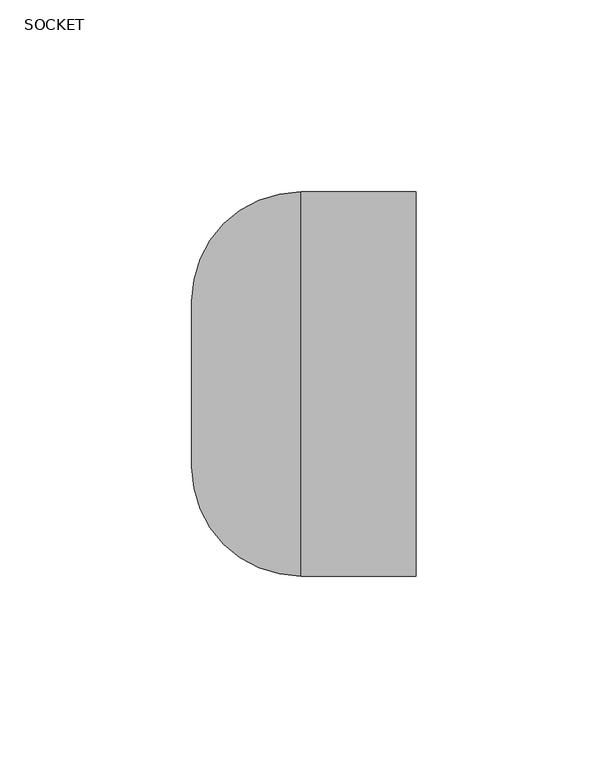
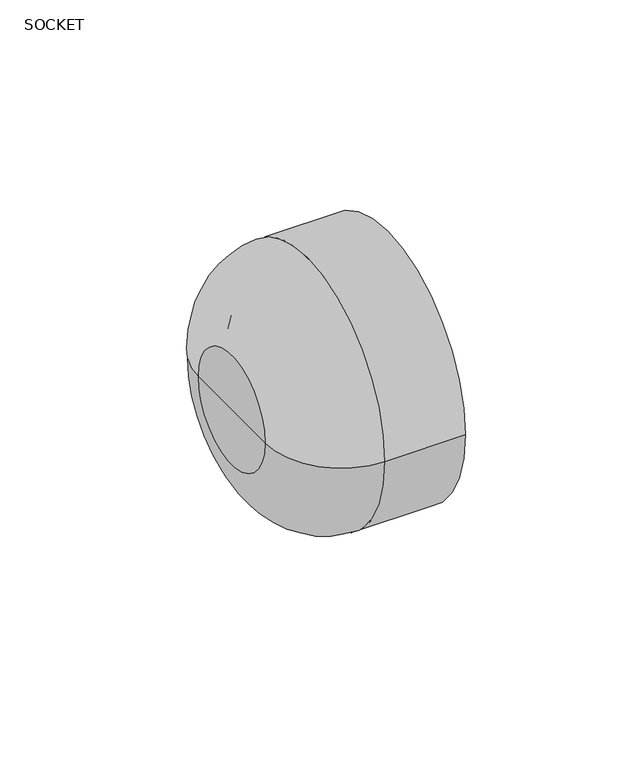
"""IFC4 building model written with IfcOpenShell, lengths in millimetres: pipe fitting geometry, Aquatherm - End Cap Socket : SOCKET."""

from ifc_helpers import new_model, si_unit, point, frame, origin, place, context, project, spatial, polyline, circle_curve, ellipse_curve, trimmed, source, transform, mapped, element, save
from ifc_brep_helpers import plane_surface, cylinder_surface, revolved_surface, advanced_brep


def socket_74daa82f(model_context):
    return source(origin(), model_context, "Body", "AdvancedBrep", [
        advanced_brep(
        [(-58.42, 0.0, 0.0), (-58.42, 21.59, 0.0), (-58.42, -21.59, 0.0), (-39.1751312, -37.465, 0.0), (-39.1751312, 37.465, 0.0), (-39.1751312, 33.6379312, 0.0), (-39.1751312, -33.6379312, 0.0), (0.0, -37.465, 0.0), (0.0, 37.465, 0.0), (0.0, -50.038, 0.0), (0.0, 50.038, 0.0), (-29.972, -50.038, 0.0), (-29.972, 50.038, 0.0), (-42.0199312, -30.7931312, 0.0), (-42.0199312, 30.7931312, 0.0), (-42.0199312, 0.0, 0.0)],
        [
            (0, 1),
            (1, 2, circle_curve(frame((-58.42, 0.0, 0.0), z_axis=(-1.0, 0.0, 0.0), x_axis=(0.0, 1.0, 0.0)), 21.59)),
            (2, 0),
            (2, 1, circle_curve(frame((-58.42, 0.0, 0.0), z_axis=(-1.0, 0.0, 0.0), x_axis=(0.0, 1.0, 0.0)), 21.59)),
            (3, 4, circle_curve(frame((-39.1751312, 0.0, 0.0), z_axis=(1.0, 0.0, 0.0), x_axis=(0.0, 1.0, 0.0)), 37.465)),
            (4, 5),
            (5, 6, circle_curve(frame((-39.1751312, 0.0, 0.0), z_axis=(-1.0, 0.0, 0.0), x_axis=(0.0, 1.0, 0.0)), 33.6379312)),
            (6, 3),
            (4, 3, circle_curve(frame((-39.1751312, 0.0, 0.0), z_axis=(1.0, 0.0, 0.0), x_axis=(0.0, 1.0, 0.0)), 37.465)),
            (6, 5, circle_curve(frame((-39.1751312, 0.0, 0.0), z_axis=(-1.0, 0.0, 0.0), x_axis=(0.0, 1.0, 0.0)), 33.6379312)),
            (7, 8, circle_curve(frame((0.0, 0.0, 0.0), z_axis=(1.0, 0.0, 0.0), x_axis=(0.0, 1.0, 0.0)), 37.465)),
            (8, 4),
            (3, 7),
            (8, 7, circle_curve(frame((0.0, 0.0, 0.0), z_axis=(1.0, 0.0, 0.0), x_axis=(0.0, 1.0, 0.0)), 37.465)),
            (9, 10, circle_curve(frame((0.0, 0.0, 0.0), z_axis=(1.0, 0.0, 0.0), x_axis=(0.0, 1.0, 0.0)), 50.038)),
            (10, 8),
            (7, 9),
            (10, 9, circle_curve(frame((0.0, 0.0, 0.0), z_axis=(1.0, 0.0, 0.0), x_axis=(0.0, 1.0, 0.0)), 50.038)),
            (11, 12, circle_curve(frame((-29.972, 0.0, 0.0), z_axis=(1.0, 0.0, 0.0), x_axis=(0.0, 1.0, 0.0)), 50.038)),
            (12, 10),
            (9, 11),
            (12, 11, circle_curve(frame((-29.972, 0.0, 0.0), z_axis=(1.0, 0.0, 0.0), x_axis=(0.0, 1.0, 0.0)), 50.038)),
            (1, 12, circle_curve(frame((-29.972, 21.59, 0.0), z_axis=(0.0, 0.0, -1.0), x_axis=(1.0, 0.0, 0.0)), 28.448)),
            (11, 2, circle_curve(frame((-29.972, -21.59, 0.0), z_axis=(0.0, 0.0, -1.0), x_axis=(1.0, 0.0, 0.0)), 28.448)),
            (13, 14, circle_curve(frame((-42.0199312, 0.0, 0.0), z_axis=(1.0, 0.0, 0.0), x_axis=(0.0, 1.0, 0.0)), 30.7931312)),
            (14, 15),
            (15, 13),
            (14, 13, circle_curve(frame((-42.0199312, 0.0, 0.0), z_axis=(1.0, 0.0, 0.0), x_axis=(0.0, 1.0, 0.0)), 30.7931312)),
            (5, 14, circle_curve(frame((-39.1751312, 30.7931312, 0.0), z_axis=(0.0, 0.0, 1.0), x_axis=(1.0, 0.0, 0.0)), 2.8448)),
            (13, 6, circle_curve(frame((-39.1751312, -30.7931312, 0.0), z_axis=(0.0, 0.0, 1.0), x_axis=(1.0, 0.0, 0.0)), 2.8448)),
        ],
        [
            plane_surface(frame((-58.42, 0.0, 0.0), z_axis=(-1.0, 0.0, 0.0), x_axis=(0.0, 1.0, 0.0))),
            plane_surface(frame((-39.1751312, 0.0, 0.0), z_axis=(1.0, 0.0, 0.0), x_axis=(0.0, 1.0, 0.0))),
            revolved_surface(polyline([(-39.1751312, 37.465, 0.0), (0.0, 37.465, 0.0)]), (-42.0199312, 0.0, 0.0), (-1.0, 0.0, 0.0)),
            plane_surface(frame((0.0, 0.0, 0.0), z_axis=(1.0, 0.0, 0.0), x_axis=(0.0, 1.0, 0.0))),
            cylinder_surface(frame((-42.0199312, 0.0, 0.0), z_axis=(-1.0, 0.0, 0.0), x_axis=(0.0, 1.0, 0.0)), 50.038),
            revolved_surface(trimmed(ellipse_curve(frame((-29.972, 21.59, 0.0), z_axis=(0.0, 0.0, 1.0), x_axis=(1.0, 0.0, 0.0)), 28.448, 28.448), [point((-29.972, 50.038, 0.0))], [point((-58.42, 21.59, 0.0))], True, "CARTESIAN"), (-42.0199312, 0.0, 0.0), (-1.0, 0.0, 0.0)),
            plane_surface(frame((-42.0199312, 0.0, 0.0), z_axis=(1.0, 0.0, 0.0), x_axis=(0.0, 1.0, 0.0))),
            revolved_surface(trimmed(ellipse_curve(frame((-39.1751312, 30.7931312, 0.0), z_axis=(0.0, 0.0, -1.0), x_axis=(1.0, 0.0, 0.0)), 2.8448, 2.8448), [point((-42.0199312, 30.7931312, 0.0))], [point((-39.1751312, 33.6379312, 0.0))], True, "CARTESIAN"), (-42.0199312, 0.0, 0.0), (-1.0, 0.0, 0.0)),
        ],
        [
            (0, [[1, 2, 3]]),
            (0, [[-3, 4, -1]]),
            (1, [[5, 6, 7, 8]]),
            (1, [[9, -8, 10, -6]]),
            (2, [[11, 12, -5, 13]]),
            (2, [[14, -13, -9, -12]]),
            (3, [[15, 16, -11, 17]]),
            (3, [[18, -17, -14, -16]]),
            (4, [[19, 20, -15, 21]]),
            (4, [[22, -21, -18, -20]]),
            (5, [[-2, 23, -19, 24]]),
            (5, [[-4, -24, -22, -23]]),
            (6, [[25, 26, 27]]),
            (6, [[28, -27, -26]]),
            (7, [[-7, 29, -25, 30]]),
            (7, [[-10, -30, -28, -29]]),
        ],
    ),
    ])


if __name__ == "__main__":
    model = new_model("IFC4")
    model_context = context("Model", 3, world=origin())
    ifc_project = project(units=[si_unit("LENGTHUNIT", "METRE", prefix="MILLI")], contexts=[model_context])
    site = spatial("IfcSite", under=ifc_project)
    building = spatial("IfcBuilding", under=site)
    placement = place(None, origin())
    ifc_socket_shape = socket_74daa82f(model_context)
    element("IfcPipeFitting", 1, ObjectType="Aquatherm - End Cap Socket : SOCKET", at=placement, inside=building, context=model_context, shape_type="MappedRepresentation", body=[
        mapped(ifc_socket_shape, transform((0.0, 0.0, 0.0), x_axis=(1.0, 0.0, 0.0), y_axis=(0.0, 1.0, 0.0), z_axis=(0.0, 0.0, 1.0))),
    ])
    save(model, "model.ifc")
